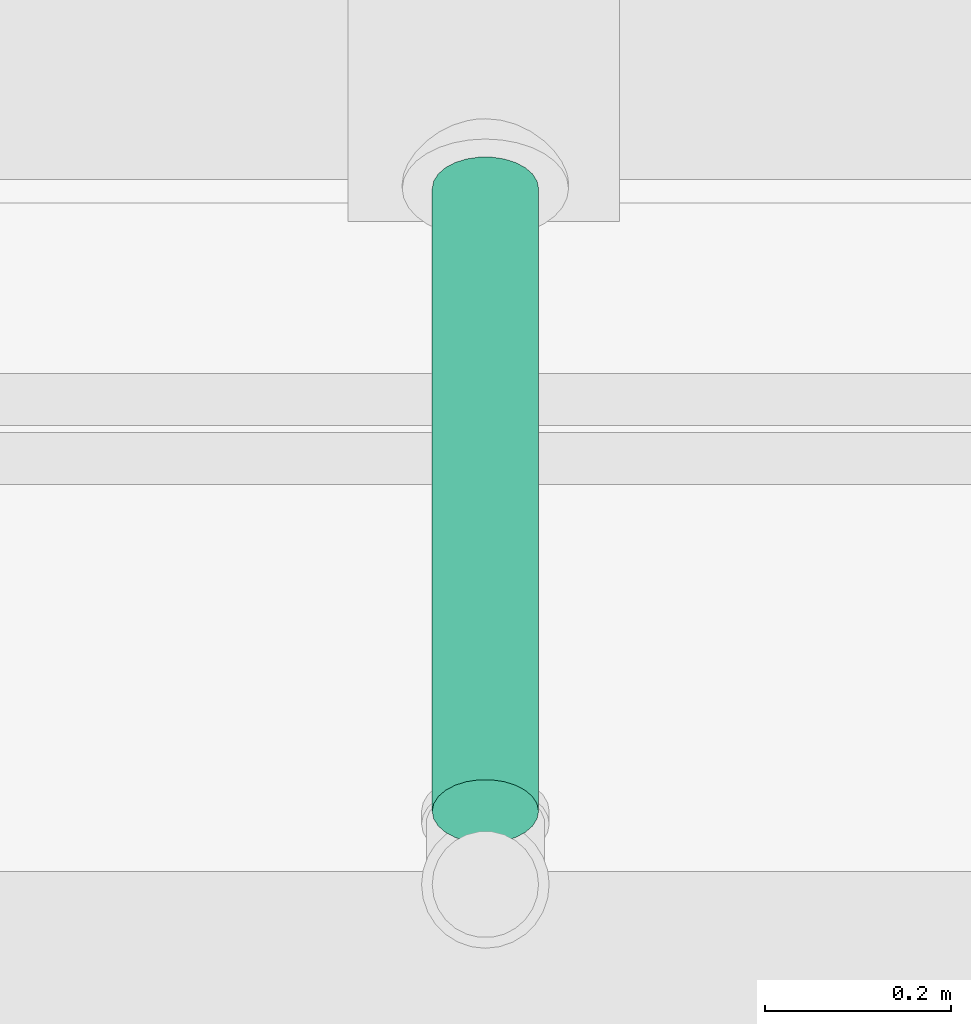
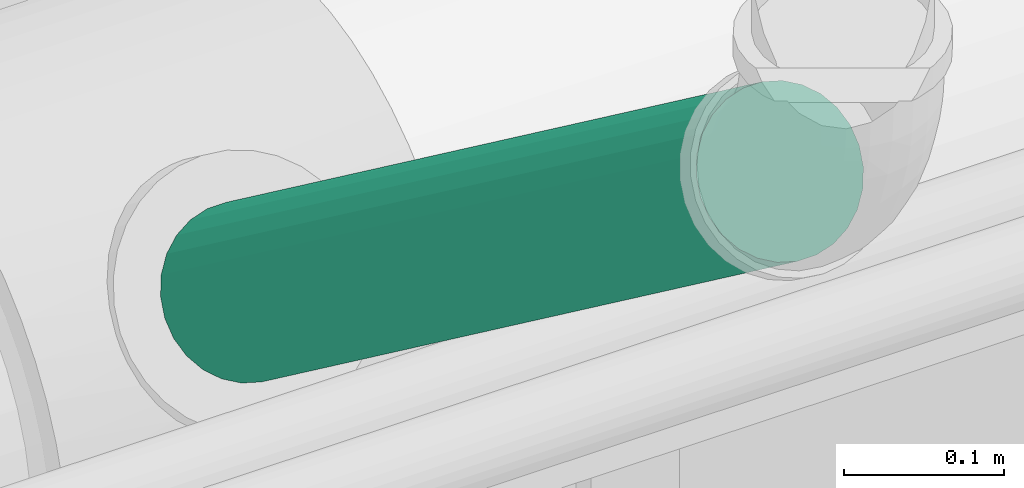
# One storey, part 79 of 108: 1 pipe segment.
"""IFC4 building model written with IfcOpenShell, lengths in feet."""

import ifcopenshell
import ifcopenshell.guid

model = None  # the IFC model being written
_history = None  # IfcOwnerHistory: only IFC2X3 demands one
_inside = {}  # id of a spatial element -> (the spatial element, [elements in it])
_under = {}  # id of a project, library or spatial element -> (it, [spatial elements below it])
_declared = {}  # id of a project -> (the project, [libraries it declares])
_typed = {}  # id of a type object -> (the type object, [elements of that type])
_made_of = {}  # id of a material, layer set ... -> (it, [elements and type objects made of it])


def new_model(schema):
    """Start an empty IFC model of exactly this schema.

    Asked for "IFC4X3", IfcOpenShell would pick the latest addendum, in which some entities
    have other attributes; the version numbers below select the first issue.
    IFC2X3 requires an IfcOwnerHistory on every rooted entity: one is made here for all.
    """
    global model, _history
    if schema == "IFC4X3":
        model = ifcopenshell.file(schema_version=(4, 3, 0, 0))
    else:
        model = ifcopenshell.file(schema=schema)
    _inside.clear()
    _under.clear()
    _declared.clear()
    _typed.clear()
    _made_of.clear()
    _history = None
    if model.schema == "IFC2X3":
        org = make("IfcOrganization", Name="unknown")
        user = make(
            "IfcPersonAndOrganization",
            ThePerson=make("IfcPerson", FamilyName="unknown"),
            TheOrganization=org,
        )
        app = make(
            "IfcApplication",
            ApplicationDeveloper=org,
            Version="unknown",
            ApplicationFullName="unknown",
            ApplicationIdentifier="unknown",
        )
        _history = make(
            "IfcOwnerHistory",
            OwningUser=user,
            OwningApplication=app,
            ChangeAction="ADDED",
            CreationDate=0,
        )
    return model


def make(cls, **values):
    """One entity of the class cls with the attributes given. An attribute that is None is left unset."""
    return model.create_entity(
        cls, **{name: value for name, value in values.items() if value is not None}
    )


def entity(cls, *values):
    """Any entity or typed value of the class cls, its attributes in the order of the schema. None: left unset."""
    e = model.create_entity(cls)
    for i, value in enumerate(values):
        if value is not None:
            e[i] = value
    return e


def rooted(cls, **values):
    """An entity with a GlobalId (a new one), such as an element, a storey or a relation."""
    return make(cls, GlobalId=ifcopenshell.guid.new(), OwnerHistory=_history, **values)


def si_unit(unit_type, name, prefix=None):
    """IfcSIUnit, for example si_unit("LENGTHUNIT", "METRE", prefix="MILLI")."""
    return make("IfcSIUnit", UnitType=unit_type, Prefix=prefix, Name=name)


def converted_unit(unit_type, name, factor, base, dimensions=None, offset=None):
    """IfcConversionBasedUnit, such as the inch: factor (a typed value) times the base unit."""
    return make(
        "IfcConversionBasedUnit"
        if offset is None
        else "IfcConversionBasedUnitWithOffset",
        ConversionOffset=offset,
        Dimensions=None
        if dimensions is None
        else entity("IfcDimensionalExponents", *dimensions),
        UnitType=unit_type,
        Name=name,
        ConversionFactor=make(
            "IfcMeasureWithUnit", ValueComponent=factor, UnitComponent=base
        ),
    )


def derived_unit(unit_type, elements):
    """IfcDerivedUnit: a product of units, each with its exponent."""
    return make(
        "IfcDerivedUnit",
        Elements=[
            make("IfcDerivedUnitElement", Unit=unit, Exponent=power)
            for unit, power in elements
        ],
        UnitType=unit_type,
    )


def assignment(units):
    """IfcUnitAssignment: the units of a project."""
    return None if units is None else make("IfcUnitAssignment", Units=units)


def point(xyz):
    """IfcCartesianPoint."""
    return None if xyz is None else make("IfcCartesianPoint", Coordinates=xyz)


def direction(xyz):
    """IfcDirection."""
    return None if xyz is None else make("IfcDirection", DirectionRatios=xyz)


def frame(location, z_axis=None, x_axis=None):
    """IfcAxis2Placement3D, a coordinate frame: its origin and axes. An axis left out is left unset."""
    return make(
        "IfcAxis2Placement3D",
        Location=point(location),
        Axis=direction(z_axis),
        RefDirection=direction(x_axis),
    )


def frame_2d(location, x_axis=None):
    """IfcAxis2Placement2D, a coordinate frame in the plane: its origin and x axis."""
    return make(
        "IfcAxis2Placement2D", Location=point(location), RefDirection=direction(x_axis)
    )


def origin():
    """The frame at (0, 0, 0) with its axes left unset."""
    return frame((0.0, 0.0, 0.0))


def place(relative_to, where):
    """IfcLocalPlacement: puts the frame where relative to a parent placement (None: the world)."""
    return make(
        "IfcLocalPlacement", PlacementRelTo=relative_to, RelativePlacement=where
    )


def context(
    kind, dimensions, precision=None, world=None, true_north=None, identifier=None
):
    """IfcGeometricRepresentationContext, for example the 3D "Model" context."""
    return make(
        "IfcGeometricRepresentationContext",
        ContextIdentifier=identifier,
        ContextType=kind,
        CoordinateSpaceDimension=dimensions,
        Precision=precision,
        WorldCoordinateSystem=world,
        TrueNorth=true_north,
    )


def subcontext(parent, identifier, kind, view, scale=None):
    """IfcGeometricRepresentationSubContext, for example "Body" below "Model"."""
    return make(
        "IfcGeometricRepresentationSubContext",
        ContextIdentifier=identifier,
        ContextType=kind,
        ParentContext=parent,
        TargetScale=scale,
        TargetView=view,
    )


def project(units=None, contexts=None):
    """IfcProject with its units and contexts."""
    return rooted(
        "IfcProject",
        Name="project",
        RepresentationContexts=contexts,
        UnitsInContext=assignment(units),
    )


def spatial(cls, under=None, at=None, **own):
    """A site, building, storey or space (cls), placed at a placement, below another one or the project."""
    s = rooted(cls, ObjectPlacement=at, **own)
    if under is not None:
        _under.setdefault(under.id(), (under, []))[1].append(s)
    return s


def profile(cls, at=None, kind="AREA", **sizes):
    """A parametric profile (cls). Its sizes go by their IFC names, for example OverallWidth=200.0."""
    return make(cls, ProfileType=kind, Position=at, **sizes)


def circle(**sizes):
    """IfcCircleProfileDef."""
    return profile("IfcCircleProfileDef", **sizes)


def extrude(swept, where, along, depth):
    """IfcExtrudedAreaSolid: the profile swept, set in the frame where, extruded along a direction by depth."""
    return make(
        "IfcExtrudedAreaSolid",
        SweptArea=swept,
        Position=where,
        ExtrudedDirection=direction(along),
        Depth=depth,
    )


def shape(context_of_items, identifier, shape_type, items):
    """IfcShapeRepresentation: the items that make up one representation, for example the "Body"."""
    return make(
        "IfcShapeRepresentation",
        ContextOfItems=context_of_items,
        RepresentationIdentifier=identifier,
        RepresentationType=shape_type,
        Items=items,
    )


def made_of(thing, what):
    """Note that an element or type object is made of a material, layer set ...; save() writes the relation."""
    if what is not None:
        _made_of.setdefault(what.id(), (what, []))[1].append(thing)
    return thing


def type_object(cls, material=None, **own):
    """A type object (cls), such as IfcWallType, which elements share."""
    return made_of(rooted(cls, **own), material)


def element(
    cls,
    number,
    at=None,
    inside=None,
    cuts=None,
    type_object=None,
    material=None,
    context=None,
    identifier="Body",
    shape_type=None,
    held_by="IfcProductDefinitionShape",
    body=None,
    shapes=None,
    **own,
):
    """One element of the class cls, such as IfcWall. Its Tag is "e" and its number.

    at: its placement. inside: the storey or other place that contains it. cuts: it is an
    opening in that element (IfcRelVoidsElement). A single representation is given by context,
    identifier, shape_type and body (its items); several are given by shapes. held_by: the class
    of the entity that holds the representations. save() writes the other relations.
    """
    e = rooted(cls, Tag="e%d" % number, ObjectPlacement=at, **own)
    if body is not None:
        shapes = [shape(context, identifier, shape_type, body)]
    if shapes is not None:
        e.Representation = make(held_by, Representations=shapes)
    if inside is not None:
        _inside.setdefault(inside.id(), (inside, []))[1].append(e)
    if cuts is not None:
        rooted(
            "IfcRelVoidsElement", RelatingBuildingElement=cuts, RelatedOpeningElement=e
        )
    if type_object is not None:
        _typed.setdefault(type_object.id(), (type_object, []))[1].append(e)
    return made_of(e, material)


def aggregate(whole, parts):
    """IfcRelAggregates: a whole, such as a stair, and the parts it consists of."""
    return rooted("IfcRelAggregates", RelatingObject=whole, RelatedObjects=parts)


def save(model, path):
    """Write the relations noted so far, then the file.

    IfcRelAggregates (storeys below a building ...), IfcRelContainedInSpatialStructure (elements
    in a storey), IfcRelDefinesByType, IfcRelAssociatesMaterial and IfcRelDeclares: one each for
    every whole, place, type object, material and project.
    """
    for whole, parts in _under.values():
        aggregate(whole, parts)
    for where, things in _inside.values():
        rooted(
            "IfcRelContainedInSpatialStructure",
            RelatedElements=things,
            RelatingStructure=where,
        )
    for kind, things in _typed.values():
        rooted("IfcRelDefinesByType", RelatedObjects=things, RelatingType=kind)
    for what, things in _made_of.values():
        rooted("IfcRelAssociatesMaterial", RelatedObjects=things, RelatingMaterial=what)
    for by, libraries in _declared.values():
        rooted("IfcRelDeclares", RelatingContext=by, RelatedDefinitions=libraries)
    model.write(path)


model = new_model("IFC4")

# Units and contexts
model_context = context("Model", 3, precision=0.0001, world=origin(), true_north=direction((6.12303176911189e-17, 1.0)))
body_context = subcontext(model_context, "Body", "Model", "MODEL_VIEW")
ifc_project = project(units=[converted_unit("LENGTHUNIT", "FOOT", entity("IfcRatioMeasure", 0.3048), si_unit("LENGTHUNIT", "METRE"), dimensions=[1, 0, 0, 0, 0, 0, 0]), converted_unit("AREAUNIT", "SQUARE FOOT", entity("IfcRatioMeasure", 0.09290304), si_unit("AREAUNIT", "SQUARE_METRE"), dimensions=[2, 0, 0, 0, 0, 0, 0]), converted_unit("VOLUMEUNIT", "CUBIC FOOT", entity("IfcRatioMeasure", 0.028316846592), si_unit("VOLUMEUNIT", "CUBIC_METRE"), dimensions=[3, 0, 0, 0, 0, 0, 0]), converted_unit("PLANEANGLEUNIT", "DEGREE", entity("IfcRatioMeasure", 0.0174532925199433), si_unit("PLANEANGLEUNIT", "RADIAN"), dimensions=[0, 0, 0, 0, 0, 0, 0]), si_unit("MASSUNIT", "GRAM", prefix="KILO"), derived_unit("MASSDENSITYUNIT", [(si_unit("MASSUNIT", "GRAM", prefix="KILO"), 1), (si_unit("LENGTHUNIT", "METRE"), -3)]), si_unit("TIMEUNIT", "SECOND"), si_unit("FREQUENCYUNIT", "HERTZ"), si_unit("THERMODYNAMICTEMPERATUREUNIT", "DEGREE_CELSIUS"), derived_unit("THERMALTRANSMITTANCEUNIT", [(si_unit("MASSUNIT", "GRAM", prefix="KILO"), 1), (si_unit("THERMODYNAMICTEMPERATUREUNIT", "KELVIN"), -1), (si_unit("TIMEUNIT", "SECOND"), -3)]), derived_unit("VOLUMETRICFLOWRATEUNIT", [(si_unit("LENGTHUNIT", "METRE"), 3), (si_unit("TIMEUNIT", "SECOND"), -1)]), si_unit("ELECTRICCURRENTUNIT", "AMPERE"), si_unit("ELECTRICVOLTAGEUNIT", "VOLT"), si_unit("POWERUNIT", "WATT"), si_unit("FORCEUNIT", "NEWTON"), si_unit("ILLUMINANCEUNIT", "LUX"), si_unit("LUMINOUSFLUXUNIT", "LUMEN"), si_unit("LUMINOUSINTENSITYUNIT", "CANDELA"), derived_unit("USERDEFINED", [(si_unit("MASSUNIT", "GRAM", prefix="KILO"), -1), (si_unit("LENGTHUNIT", "METRE"), -2), (si_unit("TIMEUNIT", "SECOND"), 3), (si_unit("LUMINOUSFLUXUNIT", "LUMEN"), 1)]), derived_unit("LINEARVELOCITYUNIT", [(si_unit("LENGTHUNIT", "METRE"), 1), (si_unit("TIMEUNIT", "SECOND"), -1)]), si_unit("PRESSUREUNIT", "PASCAL"), derived_unit("USERDEFINED", [(si_unit("LENGTHUNIT", "METRE"), -2), (si_unit("MASSUNIT", "GRAM", prefix="KILO"), 1), (si_unit("TIMEUNIT", "SECOND"), -2)])], contexts=[model_context])

# Site, building, storey
site_placement = place(None, origin())
site = spatial("IfcSite", under=ifc_project, at=site_placement, Name="Default", CompositionType="ELEMENT")
building_placement = place(site_placement, origin())
building = spatial("IfcBuilding", under=site, at=building_placement, CompositionType="ELEMENT")
storey_placement = place(building_placement, frame((0.0, 0.0, 168.0)))
storey = spatial("IfcBuildingStorey", under=building, at=storey_placement, Name="Level 15", CompositionType="ELEMENT", Elevation=168.0)

# Pipe segment
pipe_segment_type = type_object("IfcPipeSegmentType", Name="Pipe Types:Hydronic", PredefinedType="NOTDEFINED")
pipe_segment_placement = place(storey_placement, frame((20.7044396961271, -19.6252607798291, 9.59643508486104)))
element("IfcPipeSegment", 1, at=pipe_segment_placement, inside=storey, type_object=pipe_segment_type, Name="Pipe Types:Hydronic", ObjectType="Pipe Types:Hydronic", PredefinedType="NOTDEFINED", context=body_context, shape_type="SweptSolid", body=[
    extrude(circle(Radius=0.1875, at=frame_2d((0.0, 2.12034939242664e-15), x_axis=(1.0, 0.0))), frame((0.192733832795, 2.3120373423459, 0.155678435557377), z_axis=(0.0, -0.802371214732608, 0.596825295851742), x_axis=(-1.0, 0.0, 0.0)), (0.0, 0.0, 1.0), 2.73551534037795),
])

save(model, "model.ifc")
